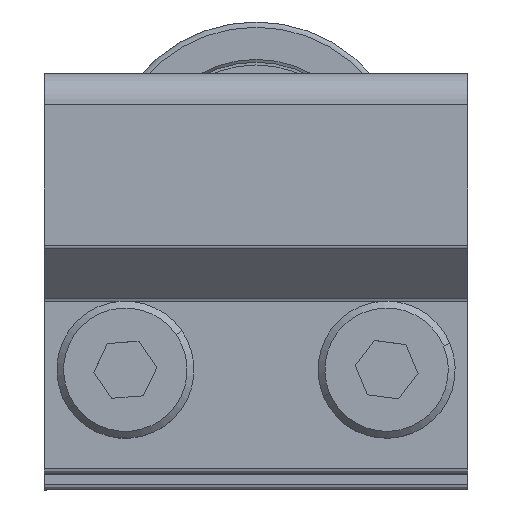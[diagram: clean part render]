
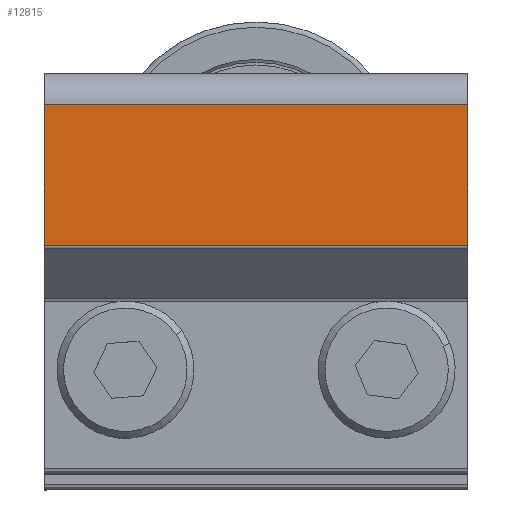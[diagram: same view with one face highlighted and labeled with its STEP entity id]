
A CAD part, top view. The second image highlights one B-rep face of the part: STEP entity #12815.
In plain terms, the highlighted planar face has unit normal (0, 0, 1) as drawn and (1, 0, 0) by its records, which use the part's own axes.
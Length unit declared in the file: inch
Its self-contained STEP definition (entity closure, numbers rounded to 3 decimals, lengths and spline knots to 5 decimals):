
#12305=DIRECTION('',(0.,0.,1.));
#12306=VECTOR('',#12305,1.216);
#12307=CARTESIAN_POINT('',(0.375,0.35921,-0.608));
#12308=LINE('',#12307,#12306);
#12309=DIRECTION('',(0.,-1.,0.));
#12310=VECTOR('',#12309,0.40379);
#12311=CARTESIAN_POINT('',(0.375,0.763,-0.608));
#12312=LINE('',#12311,#12310);
#12390=DIRECTION('',(0.,-1.,0.));
#12391=VECTOR('',#12390,0.40379);
#12392=CARTESIAN_POINT('',(0.375,0.763,0.608));
#12393=LINE('',#12392,#12391);
#12394=DIRECTION('',(0.,0.,-1.));
#12395=VECTOR('',#12394,1.216);
#12396=CARTESIAN_POINT('',(0.375,0.763,0.608));
#12397=LINE('',#12396,#12395);
#12571=CARTESIAN_POINT('',(0.375,0.763,-0.608));
#12573=VERTEX_POINT('',#12571);
#12600=CARTESIAN_POINT('',(0.375,0.763,0.608));
#12601=VERTEX_POINT('',#12600);
#12630=CARTESIAN_POINT('',(0.375,0.35921,-0.608));
#12631=VERTEX_POINT('',#12630);
#12640=CARTESIAN_POINT('',(0.375,0.35921,0.608));
#12641=VERTEX_POINT('',#12640);
#12803=CARTESIAN_POINT('',(0.375,0.763,0.608));
#12804=DIRECTION('',(-1.,0.,0.));
#12805=DIRECTION('',(0.,-1.,0.));
#12806=AXIS2_PLACEMENT_3D('',#12803,#12804,#12805);
#12807=PLANE('',#12806);
#12808=ORIENTED_EDGE('',*,*,#12720,.F.);
#12810=ORIENTED_EDGE('',*,*,#12809,.T.);
#12811=ORIENTED_EDGE('',*,*,#12761,.T.);
#12812=ORIENTED_EDGE('',*,*,#12751,.T.);
#12813=EDGE_LOOP('',(#12808,#12810,#12811,#12812));
#12814=FACE_OUTER_BOUND('',#12813,.F.);
#12720=EDGE_CURVE('',#12601,#12641,#12393,.T.);
#12751=EDGE_CURVE('',#12631,#12641,#12308,.T.);
#12761=EDGE_CURVE('',#12573,#12631,#12312,.T.);
#12809=EDGE_CURVE('',#12601,#12573,#12397,.T.);
#12815=ADVANCED_FACE('',(#12814),#12807,.F.);
